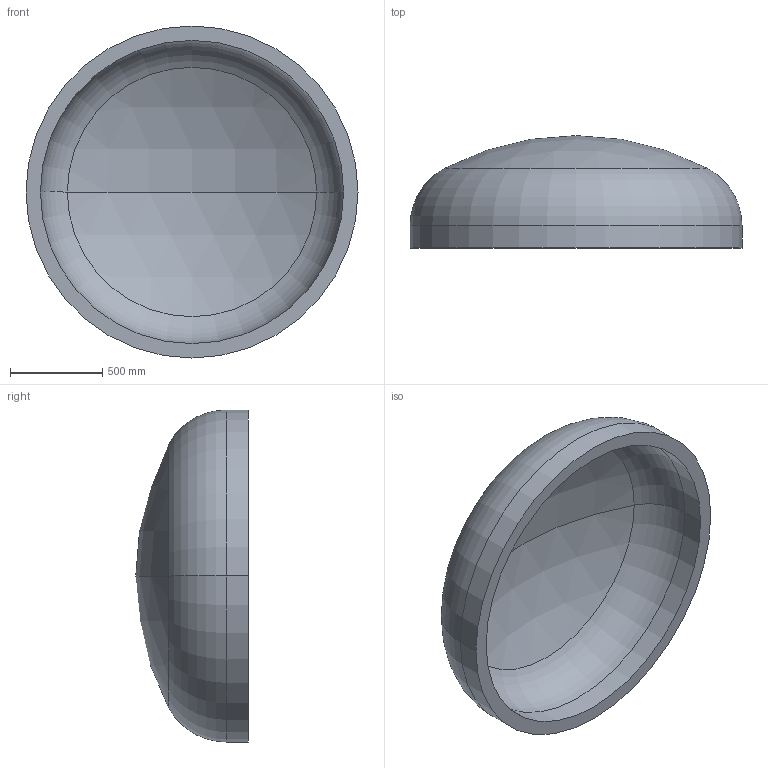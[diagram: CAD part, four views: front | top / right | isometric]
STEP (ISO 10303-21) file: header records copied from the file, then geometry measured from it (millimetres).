
FILE_DESCRIPTION (( 'STEP AP203' ), '1' );
FILE_NAME ('DIN 28013 Korbbogenform_-_Boden DIN 28013 - 1800 x 120 - I - s=78.step', '2016-07-01T12:39:52', ( '' ), ( '' ), 'SwSTEP 2.0', 'SolidWorks 2013', '' );
FILE_SCHEMA (( 'CONFIG_CONTROL_DESIGN' ));
Length unit declared in the file: millimetre
Products named in the file (1): DIN 28013 Korbbogenform_-_Boden DIN 28013 - 1800 x 120 - I - s=78
Bounding box: 1800 x 609.4 x 1800 mm (x, y, z)
Volume: 310146980.4 mm3; surface area: 8387193 mm2
Topology: 1 solids, 1 shells, 13 faces, 24 edges, 14 vertices
Faces by surface type: torus 4, cylinder 4, sphere 4, plane 1
Entity records: 407 total; most frequent: DIRECTION 72, CARTESIAN_POINT 52, ORIENTED_EDGE 48, AXIS2_PLACEMENT_3D 34, EDGE_CURVE 24, CIRCLE 20, VERTEX_POINT 14, EDGE_LOOP 14
